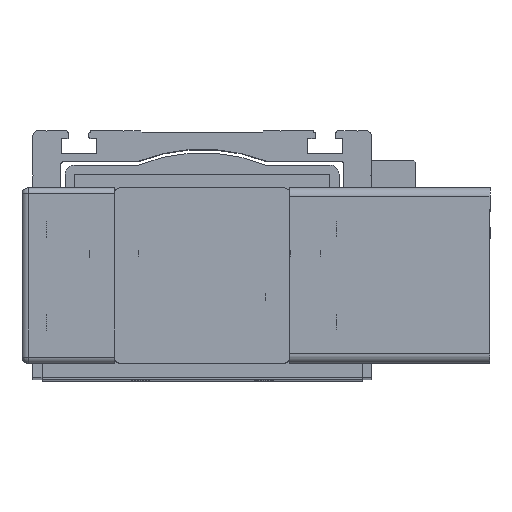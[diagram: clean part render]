
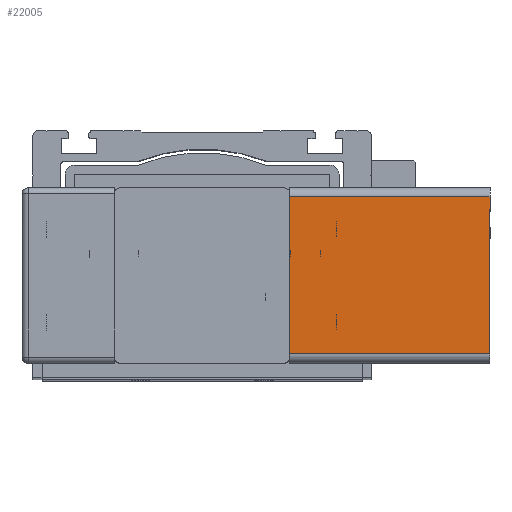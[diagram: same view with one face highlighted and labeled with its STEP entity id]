
A CAD part, top view. The second image highlights one B-rep face of the part: STEP entity #22005.
In plain terms, the highlighted planar face has unit normal (0, 0, 1) as drawn and (-1, 0, 0) by its records, which use the part's own axes.
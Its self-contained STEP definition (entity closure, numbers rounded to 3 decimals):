
#21739=CARTESIAN_POINT('',(0.0,54.0,0.0));
#21740=VERTEX_POINT('',#21739);
#21748=CARTESIAN_POINT('',(0.0,3.,0.0));
#21749=VERTEX_POINT('',#21748);
#21750=CARTESIAN_POINT('',(0.0,54.0,0.0));
#21751=DIRECTION('',(0.0,-1.0,0.0));
#21752=VECTOR('',#21751,51.0);
#21753=LINE('',#21750,#21752);
#21754=EDGE_CURVE('',#21740,#21749,#21753,.T.);
#21888=CARTESIAN_POINT('',(0.0,3.,-65.0));
#21889=VERTEX_POINT('',#21888);
#21906=CARTESIAN_POINT('',(0.0,3.,0.0));
#21907=DIRECTION('',(0.0,0.0,-1.0));
#21908=VECTOR('',#21907,65.0);
#21909=LINE('',#21906,#21908);
#21910=EDGE_CURVE('',#21749,#21889,#21909,.T.);
#21964=CARTESIAN_POINT('',(0.0,54.0,-65.0));
#21965=VERTEX_POINT('',#21964);
#21973=CARTESIAN_POINT('',(0.0,54.0,-65.0));
#21974=DIRECTION('',(0.0,0.0,1.0));
#21975=VECTOR('',#21974,65.0);
#21976=LINE('',#21973,#21975);
#21977=EDGE_CURVE('',#21965,#21740,#21976,.T.);
#21989=CARTESIAN_POINT('',(0.0,57.0,0.0));
#21990=DIRECTION('',(-1.0,0.0,0.0));
#21991=DIRECTION('',(0.0,0.0,1.0));
#21992=AXIS2_PLACEMENT_3D('',#21989,#21990,#21991);
#21993=PLANE('',#21992);
#21994=ORIENTED_EDGE('',*,*,#21910,.F.);
#21995=ORIENTED_EDGE('',*,*,#21754,.F.);
#21996=ORIENTED_EDGE('',*,*,#21977,.F.);
#21997=CARTESIAN_POINT('',(0.0,54.0,-65.0));
#21998=DIRECTION('',(0.0,-1.0,0.0));
#21999=VECTOR('',#21998,51.0);
#22000=LINE('',#21997,#21999);
#22001=EDGE_CURVE('',#21965,#21889,#22000,.T.);
#22002=ORIENTED_EDGE('',*,*,#22001,.T.);
#22003=EDGE_LOOP('',(#21994,#21995,#21996,#22002));
#22004=FACE_OUTER_BOUND('',#22003,.T.);
#22005=ADVANCED_FACE('',(#22004),#21993,.T.);
